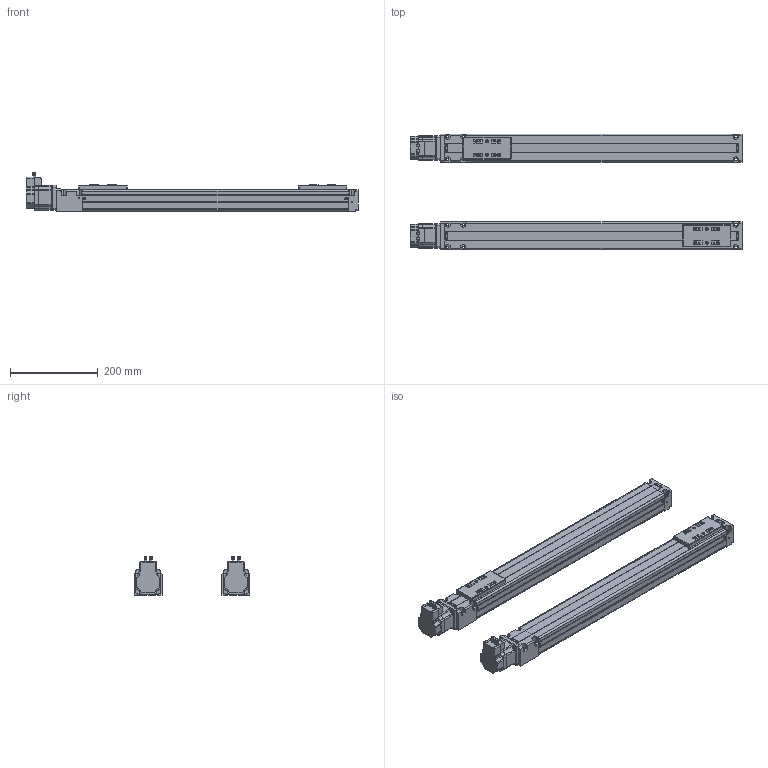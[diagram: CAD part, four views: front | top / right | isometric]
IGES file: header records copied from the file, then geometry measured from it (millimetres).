
Start section: IMSI TurboCAD v14.0
Global section: author: NULL; organization: NULL; date: 20151219.132330; units: millimetre
Bounding box: 756 x 264 x 87.99 mm (x, y, z)
Surface area: 805546.9 mm2 (no closed solid volume)
Topology: 0 solids, 0 shells, 2674 faces, 14722 edges, 14694 vertices
Faces by surface type: extrusion 1960, revolution 644, bspline 70
